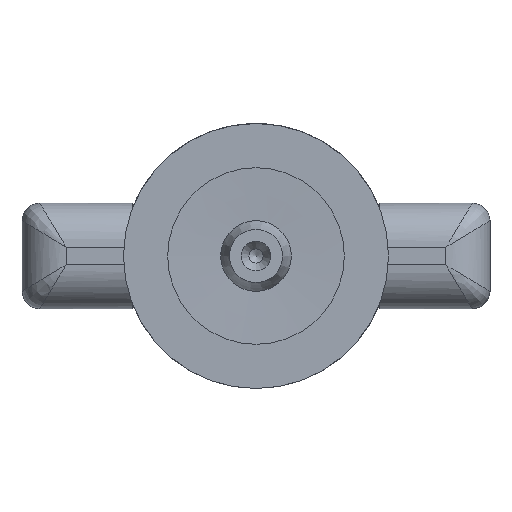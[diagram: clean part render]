
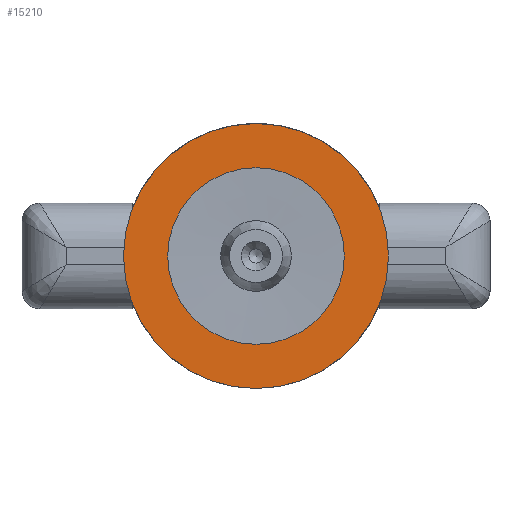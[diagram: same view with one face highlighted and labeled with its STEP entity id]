
A CAD part, front view. The second image highlights one B-rep face of the part: STEP entity #15210.
In plain terms, the highlighted planar face has unit normal (0, -1, 0) as drawn and (0, 0, -1) by its records, which use the part's own axes.
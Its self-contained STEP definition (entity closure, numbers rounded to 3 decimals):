
#3602=PLANE('',#16246);
#3790=FACE_BOUND('',#5641,.T.);
#4667=FACE_OUTER_BOUND('',#5640,.T.);
#5640=EDGE_LOOP('',(#14273));
#5641=EDGE_LOOP('',(#14274));
#5989=CIRCLE('',#16229,15.);
#5996=CIRCLE('',#16243,10.);
#7477=VERTEX_POINT('',#46596);
#7484=VERTEX_POINT('',#46617);
#9741=EDGE_CURVE('',#7477,#7477,#5989,.T.);
#9748=EDGE_CURVE('',#7484,#7484,#5996,.T.);
#14273=ORIENTED_EDGE('',*,*,#9741,.T.);
#14274=ORIENTED_EDGE('',*,*,#9748,.F.);
#15210=ADVANCED_FACE('',(#4667,#3790),#3602,.F.);
#16229=AXIS2_PLACEMENT_3D('',#46597,#19081,#19082);
#16243=AXIS2_PLACEMENT_3D('',#46618,#19109,#19110);
#16246=AXIS2_PLACEMENT_3D('',#46622,#19115,#19116);
#19081=DIRECTION('center_axis',(0.,0.,-1.));
#19082=DIRECTION('ref_axis',(-1.,0.,0.));
#19109=DIRECTION('center_axis',(0.,0.,-1.));
#19110=DIRECTION('ref_axis',(-1.,0.,0.));
#19115=DIRECTION('center_axis',(0.,0.,1.));
#19116=DIRECTION('ref_axis',(1.,0.,0.));
#46596=CARTESIAN_POINT('',(15.,0.,0.));
#46597=CARTESIAN_POINT('Origin',(0.,0.,0.));
#46617=CARTESIAN_POINT('',(10.,0.,0.));
#46618=CARTESIAN_POINT('Origin',(0.,0.,0.));
#46622=CARTESIAN_POINT('Origin',(0.,0.,0.));
